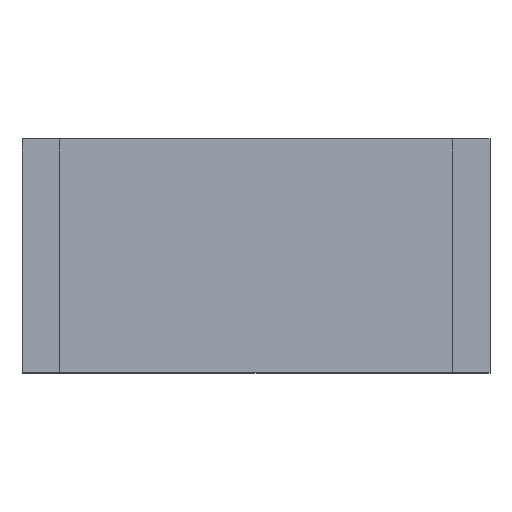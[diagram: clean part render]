
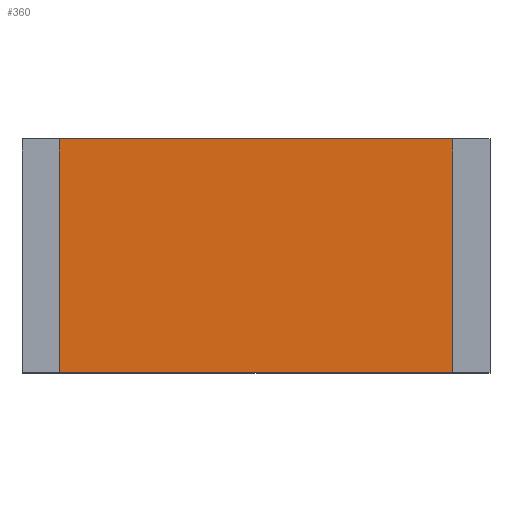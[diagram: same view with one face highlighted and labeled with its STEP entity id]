
A CAD part, top view. The second image highlights one B-rep face of the part: STEP entity #360.
In plain terms, the highlighted planar face has unit normal (0, 0, 1).
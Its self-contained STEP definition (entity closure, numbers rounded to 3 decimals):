
#360=ADVANCED_FACE('',(#759),#761,.T.);
#759=FACE_BOUND('',#760,.T.);
#760=EDGE_LOOP('',(#1046,#1047,#1048,#1049));
#761=PLANE('',#762);
#762=AXIS2_PLACEMENT_3D('',#763,#764,#765);
#763=CARTESIAN_POINT('',(0.,0.,0.6));
#764=DIRECTION('',(0.,0.,1.));
#765=DIRECTION('',(-1.,0.,0.));
#1046=ORIENTED_EDGE('',*,*,#1218,.T.);
#1047=ORIENTED_EDGE('',*,*,#1222,.T.);
#1048=ORIENTED_EDGE('',*,*,#1225,.T.);
#1049=ORIENTED_EDGE('',*,*,#1227,.T.);
#1218=EDGE_CURVE('',#1384,#1382,#1385,.T.);
#1222=EDGE_CURVE('',#1382,#1389,#1391,.T.);
#1225=EDGE_CURVE('',#1389,#1394,#1396,.T.);
#1227=EDGE_CURVE('',#1394,#1384,#1398,.T.);
#1382=VERTEX_POINT('',#1709);
#1384=VERTEX_POINT('',#1713);
#1385=LINE('',#1714,#1715);
#1389=VERTEX_POINT('',#1724);
#1391=LINE('',#1728,#1729);
#1394=VERTEX_POINT('',#1735);
#1396=LINE('',#1739,#1740);
#1398=LINE('',#1745,#1746);
#1709=CARTESIAN_POINT('',(2.1,-1.25,0.6));
#1713=CARTESIAN_POINT('',(-2.1,-1.25,0.6));
#1714=CARTESIAN_POINT('',(-2.1,-1.25,0.6));
#1715=VECTOR('',#1716,1.);
#1716=DIRECTION('',(1.,0.,0.));
#1724=CARTESIAN_POINT('',(2.1,1.25,0.6));
#1728=CARTESIAN_POINT('',(2.1,-1.25,0.6));
#1729=VECTOR('',#1730,1.);
#1730=DIRECTION('',(0.,1.,0.));
#1735=CARTESIAN_POINT('',(-2.1,1.25,0.6));
#1739=CARTESIAN_POINT('',(2.1,1.25,0.6));
#1740=VECTOR('',#1741,1.);
#1741=DIRECTION('',(-1.,0.,0.));
#1745=CARTESIAN_POINT('',(-2.1,1.25,0.6));
#1746=VECTOR('',#1747,1.);
#1747=DIRECTION('',(0.,-1.,0.));
